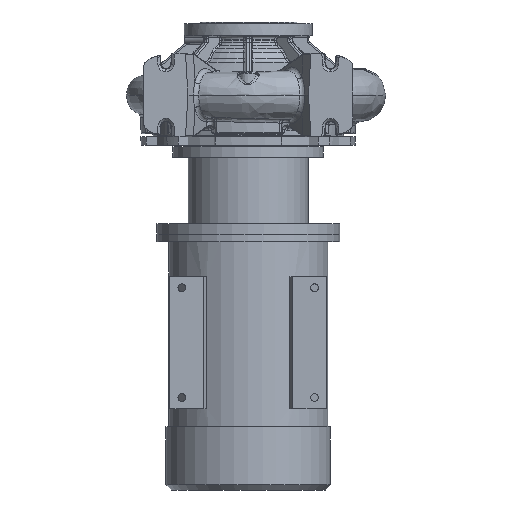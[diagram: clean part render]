
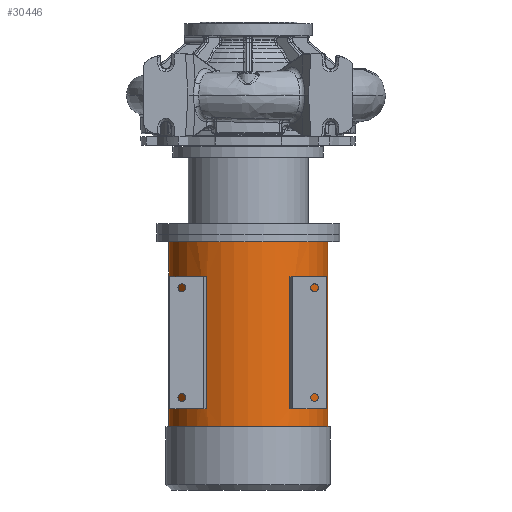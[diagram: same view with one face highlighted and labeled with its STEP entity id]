
A CAD part, front view. The second image highlights one B-rep face of the part: STEP entity #30446.
In plain terms, the highlighted cylindrical face has radius 152.5 mm (diameter 305 mm), a partial arc.
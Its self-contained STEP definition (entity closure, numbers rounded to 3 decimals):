
#150 = VECTOR ( 'NONE', #55591, 1000. ) ;
#1311 = CYLINDRICAL_SURFACE ( 'NONE', #97879, 152.5 ) ;
#1826 = DIRECTION ( 'NONE',  ( 0., 0., -1. ) ) ;
#3078 = EDGE_CURVE ( 'NONE', #69890, #81046, #20391, .T. ) ;
#3640 = ORIENTED_EDGE ( 'NONE', *, *, #89885, .T. ) ;
#3878 = AXIS2_PLACEMENT_3D ( 'NONE', #41045, #13325, #50088 ) ;
#4193 = ORIENTED_EDGE ( 'NONE', *, *, #102047, .T. ) ;
#4546 = VECTOR ( 'NONE', #66845, 1000. ) ;
#4897 = EDGE_CURVE ( 'NONE', #82928, #58073, #69214, .T. ) ;
#5193 = VERTEX_POINT ( 'NONE', #17573 ) ;
#6130 = DIRECTION ( 'NONE',  ( -1., 0., 0. ) ) ;
#7850 = ORIENTED_EDGE ( 'NONE', *, *, #3078, .T. ) ;
#9872 = FACE_OUTER_BOUND ( 'NONE', #72951, .T. ) ;
#11513 = CARTESIAN_POINT ( 'NONE',  ( -79.357, -130.226, -600.3 ) ) ;
#12800 = EDGE_CURVE ( 'NONE', #90617, #91344, #31146, .T. ) ;
#13325 = DIRECTION ( 'NONE',  ( 0., 0., 1. ) ) ;
#17264 = CARTESIAN_POINT ( 'NONE',  ( 152.5, 0., -280.8 ) ) ;
#17287 = EDGE_LOOP ( 'NONE', ( #47355, #3640, #40490, #97317 ) ) ;
#17573 = CARTESIAN_POINT ( 'NONE',  ( -152.5, 0., -634.8 ) ) ;
#17740 = EDGE_CURVE ( 'NONE', #60645, #82928, #57516, .T. ) ;
#20391 = LINE ( 'NONE', #108271, #86310 ) ;
#21634 = VERTEX_POINT ( 'NONE', #17264 ) ;
#21778 = EDGE_CURVE ( 'NONE', #21634, #24284, #110895, .T. ) ;
#24056 = CARTESIAN_POINT ( 'NONE',  ( 89.37, -123.569, -600.3 ) ) ;
#24284 = VERTEX_POINT ( 'NONE', #72201 ) ;
#24493 = VECTOR ( 'NONE', #94593, 1000. ) ;
#25242 = CARTESIAN_POINT ( 'NONE',  ( 0., 0., -634.8 ) ) ;
#25353 = ORIENTED_EDGE ( 'NONE', *, *, #12800, .T. ) ;
#26916 = DIRECTION ( 'NONE',  ( -1., 0., 0. ) ) ;
#27336 = EDGE_CURVE ( 'NONE', #75845, #5193, #52602, .T. ) ;
#27520 = DIRECTION ( 'NONE',  ( 0., 0., 1. ) ) ;
#27654 = CARTESIAN_POINT ( 'NONE',  ( 0., 0., -280.8 ) ) ;
#28092 = CIRCLE ( 'NONE', #53276, 152.5 ) ;
#30446 = ADVANCED_FACE ( 'NONE', ( #9872, #95313, #103726 ), #1311, .T. ) ;
#30793 = DIRECTION ( 'NONE',  ( 0., 0., 1. ) ) ;
#31146 = LINE ( 'NONE', #85225, #4546 ) ;
#31602 = LINE ( 'NONE', #48072, #100381 ) ;
#32040 = CARTESIAN_POINT ( 'NONE',  ( 0., 0., -347.3 ) ) ;
#36657 = DIRECTION ( 'NONE',  ( -1., 0., 0. ) ) ;
#37954 = CARTESIAN_POINT ( 'NONE',  ( 89.37, -123.569, -347.3 ) ) ;
#39467 = DIRECTION ( 'NONE',  ( 0., 0., -1. ) ) ;
#40432 = CARTESIAN_POINT ( 'NONE',  ( -152.5, 0., -755.8 ) ) ;
#40490 = ORIENTED_EDGE ( 'NONE', *, *, #4897, .F. ) ;
#41045 = CARTESIAN_POINT ( 'NONE',  ( 0., 0., -347.3 ) ) ;
#43392 = EDGE_LOOP ( 'NONE', ( #111461, #7850, #103228, #25353 ) ) ;
#44204 = EDGE_CURVE ( 'NONE', #87283, #60645, #31602, .T. ) ;
#44942 = ORIENTED_EDGE ( 'NONE', *, *, #21778, .F. ) ;
#45690 = CARTESIAN_POINT ( 'NONE',  ( 0., 0., -755.8 ) ) ;
#47355 = ORIENTED_EDGE ( 'NONE', *, *, #44204, .F. ) ;
#48072 = CARTESIAN_POINT ( 'NONE',  ( -79.357, -130.226, -755.8 ) ) ;
#49667 = DIRECTION ( 'NONE',  ( 0., 0., -1. ) ) ;
#50088 = DIRECTION ( 'NONE',  ( -1., 0., 0. ) ) ;
#51598 = CARTESIAN_POINT ( 'NONE',  ( -89.37, -123.569, -755.8 ) ) ;
#51743 = EDGE_CURVE ( 'NONE', #69890, #91344, #59464, .T. ) ;
#52602 = LINE ( 'NONE', #40432, #24493 ) ;
#53276 = AXIS2_PLACEMENT_3D ( 'NONE', #25242, #68458, #6130 ) ;
#55591 = DIRECTION ( 'NONE',  ( 0., 0., -1. ) ) ;
#57516 = CIRCLE ( 'NONE', #104689, 152.5 ) ;
#58073 = VERTEX_POINT ( 'NONE', #63152 ) ;
#59464 = CIRCLE ( 'NONE', #69017, 152.5 ) ;
#60645 = VERTEX_POINT ( 'NONE', #90264 ) ;
#62649 = CARTESIAN_POINT ( 'NONE',  ( 79.357, -130.226, -600.3 ) ) ;
#62694 = EDGE_CURVE ( 'NONE', #81046, #90617, #98775, .T. ) ;
#62838 = CARTESIAN_POINT ( 'NONE',  ( 0., 0., -600.3 ) ) ;
#63152 = CARTESIAN_POINT ( 'NONE',  ( -89.37, -123.569, -600.3 ) ) ;
#65073 = CARTESIAN_POINT ( 'NONE',  ( 152.5, 0., -755.8 ) ) ;
#66845 = DIRECTION ( 'NONE',  ( 0., 0., -1. ) ) ;
#67779 = ORIENTED_EDGE ( 'NONE', *, *, #74462, .F. ) ;
#68458 = DIRECTION ( 'NONE',  ( 0., 0., -1. ) ) ;
#69017 = AXIS2_PLACEMENT_3D ( 'NONE', #62838, #72222, #89071 ) ;
#69214 = LINE ( 'NONE', #51598, #74783 ) ;
#69571 = AXIS2_PLACEMENT_3D ( 'NONE', #27654, #72770, #36657 ) ;
#69890 = VERTEX_POINT ( 'NONE', #62649 ) ;
#71652 = DIRECTION ( 'NONE',  ( 0., 0., -1. ) ) ;
#72201 = CARTESIAN_POINT ( 'NONE',  ( 152.5, 0., -634.8 ) ) ;
#72222 = DIRECTION ( 'NONE',  ( 0., 0., 1. ) ) ;
#72770 = DIRECTION ( 'NONE',  ( 0., 0., -1. ) ) ;
#72951 = EDGE_LOOP ( 'NONE', ( #44942, #4193, #85620, #67779 ) ) ;
#74462 = EDGE_CURVE ( 'NONE', #24284, #5193, #28092, .T. ) ;
#74783 = VECTOR ( 'NONE', #39467, 1000. ) ;
#75845 = VERTEX_POINT ( 'NONE', #114260 ) ;
#80226 = CIRCLE ( 'NONE', #110275, 152.5 ) ;
#81046 = VERTEX_POINT ( 'NONE', #110326 ) ;
#81232 = CARTESIAN_POINT ( 'NONE',  ( -89.37, -123.569, -347.3 ) ) ;
#82223 = CARTESIAN_POINT ( 'NONE',  ( 0., 0., -600.3 ) ) ;
#82928 = VERTEX_POINT ( 'NONE', #81232 ) ;
#82986 = DIRECTION ( 'NONE',  ( 1., 0., 0. ) ) ;
#85225 = CARTESIAN_POINT ( 'NONE',  ( 89.37, -123.569, -755.8 ) ) ;
#85620 = ORIENTED_EDGE ( 'NONE', *, *, #27336, .T. ) ;
#86310 = VECTOR ( 'NONE', #27520, 1000. ) ;
#87283 = VERTEX_POINT ( 'NONE', #11513 ) ;
#89071 = DIRECTION ( 'NONE',  ( -1., 0., 0. ) ) ;
#89885 = EDGE_CURVE ( 'NONE', #87283, #58073, #80226, .T. ) ;
#90264 = CARTESIAN_POINT ( 'NONE',  ( -79.357, -130.226, -347.3 ) ) ;
#90617 = VERTEX_POINT ( 'NONE', #37954 ) ;
#91344 = VERTEX_POINT ( 'NONE', #24056 ) ;
#94593 = DIRECTION ( 'NONE',  ( 0., 0., -1. ) ) ;
#95313 = FACE_BOUND ( 'NONE', #43392, .T. ) ;
#97317 = ORIENTED_EDGE ( 'NONE', *, *, #17740, .F. ) ;
#97879 = AXIS2_PLACEMENT_3D ( 'NONE', #45690, #71652, #26916 ) ;
#98775 = CIRCLE ( 'NONE', #3878, 152.5 ) ;
#100381 = VECTOR ( 'NONE', #30793, 1000. ) ;
#102047 = EDGE_CURVE ( 'NONE', #21634, #75845, #113308, .T. ) ;
#103228 = ORIENTED_EDGE ( 'NONE', *, *, #62694, .T. ) ;
#103726 = FACE_BOUND ( 'NONE', #17287, .T. ) ;
#104689 = AXIS2_PLACEMENT_3D ( 'NONE', #32040, #49667, #112409 ) ;
#108271 = CARTESIAN_POINT ( 'NONE',  ( 79.357, -130.226, -755.8 ) ) ;
#110275 = AXIS2_PLACEMENT_3D ( 'NONE', #82223, #1826, #82986 ) ;
#110326 = CARTESIAN_POINT ( 'NONE',  ( 79.357, -130.226, -347.3 ) ) ;
#110895 = LINE ( 'NONE', #65073, #150 ) ;
#111461 = ORIENTED_EDGE ( 'NONE', *, *, #51743, .F. ) ;
#112409 = DIRECTION ( 'NONE',  ( 1., 0., 0. ) ) ;
#113308 = CIRCLE ( 'NONE', #69571, 152.5 ) ;
#114260 = CARTESIAN_POINT ( 'NONE',  ( -152.5, 0., -280.8 ) ) ;
